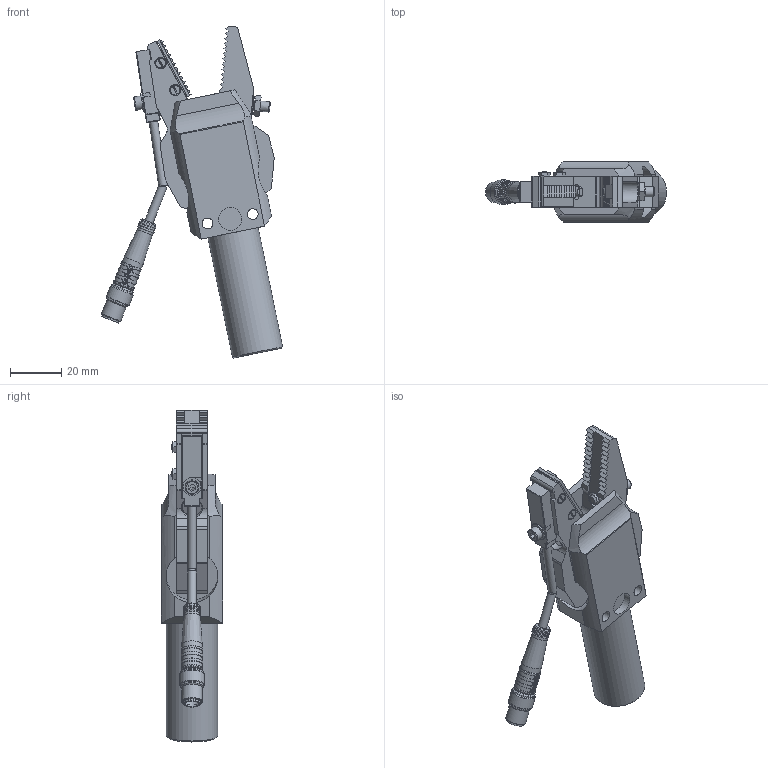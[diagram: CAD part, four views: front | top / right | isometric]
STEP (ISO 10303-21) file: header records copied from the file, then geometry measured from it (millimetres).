
FILE_DESCRIPTION(('STEP AP214'),'1');
FILE_NAME('CA.GTS.1004.125N.stp','2021-09-22T13:52:39',(' '),(' '),'Spatial InterOp 3D',' ',' ');
FILE_SCHEMA(('AUTOMOTIVE_DESIGN { 1 0 10303 214 1 1 1 1 }'));
Length unit declared in the file: millimetre
Products named in the file (20): CA.GTS.1004.125N; GTS.1004.01 per sito; GTS.04.15.N; V.TCE3x10; R.3; D.2; V.TSP2X14; GTS.1004.15; GRZ.20.SC.NPN; Q5-5; GTS.1004.15.1; PAP.0405504; DIM.11010; V.TSP4x14; GTS.04.12; GTS.1004.12; R.4.SCH; V.STM4X20; D.4
Assembly tree (24 placements, depth 4):
  CA.GTS.1004.125N
    GTS.1004.01 per sito
    GTS.04.15.N
      V.TCE3x10
      R.3
      D.2  x2
      V.TSP2X14  x2
      GTS.1004.15
      GRZ.20.SC.NPN
        Q5-5
        GRZ.20.SC.NPN
      GTS.1004.15.1
      PAP.0405504  x2
      DIM.11010
      V.TSP4x14
    GTS.04.12
      GTS.1004.12
      PAP.0405504  x2
      R.4.SCH
      V.STM4X20
      D.4
Bounding box: 70.67 x 24 x 129.58 mm (x, y, z)
Volume: 56287.3 mm3; surface area: 26374.8 mm2
Topology: 20 solids, 22 shells, 1199 faces, 3139 edges, 2018 vertices
Faces by surface type: plane 936, cylinder 165, cone 55, torus 28, bspline 13, extrusion 2
Full cylindrical faces by diameter (mm): 1.5 x1, 1.7 x1, 1.8 x2, 2.2 x4, 2.5 x1, 3 x3, 3.2 x3, 3.242 x1, 3.25 x1, 3.3 x4, 3.4 x1, 3.5 x1, 4 x6, 4.05 x2, 4.2 x2, 4.25 x1, 4.3 x1, 4.5 x2, 4.6 x1, 5.2 x1, 5.3 x1, 5.5 x6, 5.8 x3, 6 x2, 6.25 x1, 6.35 x6, 6.9 x2, 7 x2, 8.003 x1, 8.1 x1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
Entity records: 49444 total; most frequent: CARTESIAN_POINT 11282, ORIENTED_EDGE 5816, DIRECTION 5541, EDGE_CURVE 2908, VECTOR 2095, LINE 2093, VERTEX_POINT 1928, AXIS2_PLACEMENT_3D 1723
